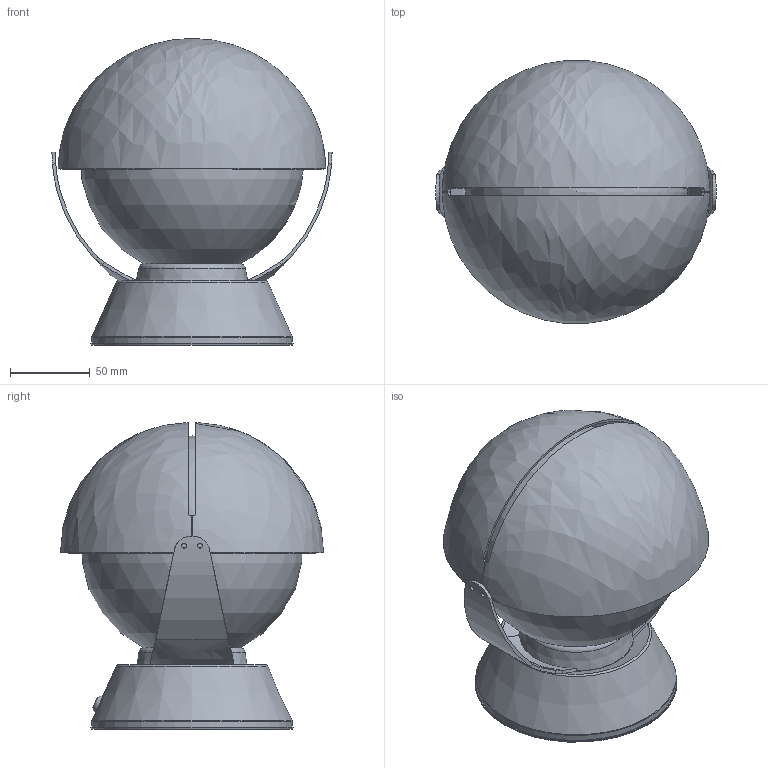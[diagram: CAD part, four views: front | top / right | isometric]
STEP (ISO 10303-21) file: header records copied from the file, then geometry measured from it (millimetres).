
FILE_DESCRIPTION(/* description */ ('Unknown'),/* implementation_level */ '2;1');
FILE_NAME(/* name */ '8961',/* time_stamp */ '2019-07-24T15:43:51+02:00',/* author */ ('Unknown'),/* organization */ ('Unknown'),/* preprocessor_version */ 'ST-DEVELOPER v16.7',/* originating_system */ 'DEX',/* authorisation */ $);
FILE_SCHEMA (('AUTOMOTIVE_DESIGN {1 0 10303 214 3 1 1}'));
Length unit declared in the file: millimetre
Products named in the file (8): BuonaNotte; 153000260999_oa_0; 152000337999; 151001492999; 103000023528; 152000336999; 060000167352; 061000321352
Assembly tree (9 placements, depth 3):
  BuonaNotte
    153000260999_oa_0
      152000337999
      151001492999  x2
    103000023528
    152000336999  x2
    060000167352
    061000321352
Bounding box: 176 x 165.35 x 192.96 mm (x, y, z)
Volume: 289437.6 mm3; surface area: 286477.1 mm2
Topology: 8 solids, 8 shells, 435 faces, 1067 edges, 702 vertices
Faces by surface type: plane 264, bspline 83, cylinder 55, cone 17, torus 14, sphere 2
Full cylindrical faces by diameter (mm): 3 x8, 5 x1, 7 x1, 8 x1, 8.573 x1, 30 x2, 54 x1, 124 x1, 126 x1, 127 x1
Entity records: 15794 total; most frequent: CARTESIAN_POINT 6925, ORIENTED_EDGE 1866, DIRECTION 1456, EDGE_CURVE 933, VERTEX_POINT 645, EDGE_LOOP 524, FACE_BOUND 524, LINE 504
